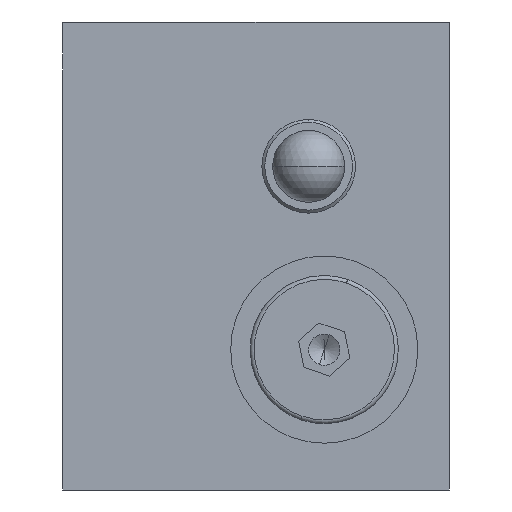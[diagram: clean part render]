
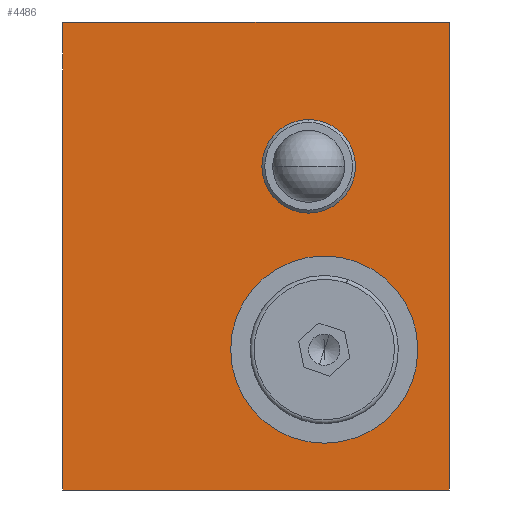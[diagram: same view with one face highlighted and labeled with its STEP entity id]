
A CAD part, left-side view. The second image highlights one B-rep face of the part: STEP entity #4486.
In plain terms, the highlighted planar face has unit normal (-1, 0, 0).
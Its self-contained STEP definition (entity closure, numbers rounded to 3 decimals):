
#42 = EDGE_CURVE ( 'NONE', #1400, #11056, #13925, .T. ) ;
#141 = AXIS2_PLACEMENT_3D ( 'NONE', #5186, #12765, #6318 ) ;
#222 = CARTESIAN_POINT ( 'NONE',  ( 0., -24.75, -30. ) ) ;
#473 = EDGE_CURVE ( 'NONE', #3227, #11909, #9689, .T. ) ;
#697 = VERTEX_POINT ( 'NONE', #12850 ) ;
#749 = PLANE ( 'NONE',  #6826 ) ;
#797 = DIRECTION ( 'NONE',  ( 0., 0., 1. ) ) ;
#802 = DIRECTION ( 'NONE',  ( 0., 0., 1. ) ) ;
#1220 = CARTESIAN_POINT ( 'NONE',  ( 0., 24.75, -30. ) ) ;
#1325 = FACE_BOUND ( 'NONE', #3506, .T. ) ;
#1400 = VERTEX_POINT ( 'NONE', #1220 ) ;
#1652 = EDGE_LOOP ( 'NONE', ( #4027, #2161, #1804, #1896 ) ) ;
#1804 = ORIENTED_EDGE ( 'NONE', *, *, #7840, .F. ) ;
#1896 = ORIENTED_EDGE ( 'NONE', *, *, #473, .F. ) ;
#2161 = ORIENTED_EDGE ( 'NONE', *, *, #42, .F. ) ;
#2606 = LINE ( 'NONE', #6685, #8139 ) ;
#2680 = VECTOR ( 'NONE', #10466, 1000. ) ;
#2766 = EDGE_CURVE ( 'NONE', #11056, #3227, #2934, .T. ) ;
#2816 = AXIS2_PLACEMENT_3D ( 'NONE', #6395, #13956, #7506 ) ;
#2934 = LINE ( 'NONE', #4022, #8794 ) ;
#3227 = VERTEX_POINT ( 'NONE', #10605 ) ;
#3506 = EDGE_LOOP ( 'NONE', ( #4284, #4207 ) ) ;
#3535 = CARTESIAN_POINT ( 'NONE',  ( 0., -24.75, -30. ) ) ;
#3759 = VERTEX_POINT ( 'NONE', #13927 ) ;
#3821 = VECTOR ( 'NONE', #6972, 1000. ) ;
#4022 = CARTESIAN_POINT ( 'NONE',  ( 0., 24.75, 30. ) ) ;
#4027 = ORIENTED_EDGE ( 'NONE', *, *, #2766, .F. ) ;
#4067 = ORIENTED_EDGE ( 'NONE', *, *, #9642, .F. ) ;
#4187 = ORIENTED_EDGE ( 'NONE', *, *, #4715, .F. ) ;
#4207 = ORIENTED_EDGE ( 'NONE', *, *, #6555, .F. ) ;
#4284 = ORIENTED_EDGE ( 'NONE', *, *, #12644, .F. ) ;
#4486 = ADVANCED_FACE ( 'NONE', ( #1325, #10374, #12556 ), #749, .T. ) ;
#4715 = EDGE_CURVE ( 'NONE', #7727, #12785, #11875, .T. ) ;
#5186 = CARTESIAN_POINT ( 'NONE',  ( 0., -6.75, 11.5 ) ) ;
#5209 = CIRCLE ( 'NONE', #9139, 6. ) ;
#5330 = CARTESIAN_POINT ( 'NONE',  ( 0., -8.75, 0. ) ) ;
#5575 = CARTESIAN_POINT ( 'NONE',  ( 0., -8.75, -12. ) ) ;
#6318 = DIRECTION ( 'NONE',  ( 0., 0., 1. ) ) ;
#6395 = CARTESIAN_POINT ( 'NONE',  ( 0., -8.75, -12. ) ) ;
#6555 = EDGE_CURVE ( 'NONE', #697, #3759, #9586, .T. ) ;
#6685 = CARTESIAN_POINT ( 'NONE',  ( 0., 24.75, -30. ) ) ;
#6687 = DIRECTION ( 'NONE',  ( 0., 0., 1. ) ) ;
#6826 = AXIS2_PLACEMENT_3D ( 'NONE', #13834, #7387, #802 ) ;
#6972 = DIRECTION ( 'NONE',  ( 0., 0., -1. ) ) ;
#7384 = DIRECTION ( 'NONE',  ( -1., 0., 0. ) ) ;
#7387 = DIRECTION ( 'NONE',  ( -1., 0., 0. ) ) ;
#7506 = DIRECTION ( 'NONE',  ( 0., 0., 1. ) ) ;
#7727 = VERTEX_POINT ( 'NONE', #5330 ) ;
#7840 = EDGE_CURVE ( 'NONE', #11909, #1400, #2606, .T. ) ;
#8139 = VECTOR ( 'NONE', #9961, 1000. ) ;
#8318 = CARTESIAN_POINT ( 'NONE',  ( 0., 24.75, -30. ) ) ;
#8794 = VECTOR ( 'NONE', #9522, 1000. ) ;
#8879 = EDGE_LOOP ( 'NONE', ( #4187, #4067 ) ) ;
#9139 = AXIS2_PLACEMENT_3D ( 'NONE', #13831, #7384, #797 ) ;
#9522 = DIRECTION ( 'NONE',  ( 0., -1., 0. ) ) ;
#9586 = CIRCLE ( 'NONE', #141, 6. ) ;
#9642 = EDGE_CURVE ( 'NONE', #12785, #7727, #10556, .T. ) ;
#9689 = LINE ( 'NONE', #3535, #3821 ) ;
#9961 = DIRECTION ( 'NONE',  ( 0., 1., 0. ) ) ;
#10170 = AXIS2_PLACEMENT_3D ( 'NONE', #5575, #13148, #6687 ) ;
#10374 = FACE_BOUND ( 'NONE', #8879, .T. ) ;
#10466 = DIRECTION ( 'NONE',  ( 0., 0., 1. ) ) ;
#10556 = CIRCLE ( 'NONE', #2816, 12. ) ;
#10605 = CARTESIAN_POINT ( 'NONE',  ( 0., -24.75, 30. ) ) ;
#10778 = CARTESIAN_POINT ( 'NONE',  ( 0., -8.75, -24. ) ) ;
#11056 = VERTEX_POINT ( 'NONE', #11853 ) ;
#11853 = CARTESIAN_POINT ( 'NONE',  ( 0., 24.75, 30. ) ) ;
#11875 = CIRCLE ( 'NONE', #10170, 12. ) ;
#11909 = VERTEX_POINT ( 'NONE', #222 ) ;
#12556 = FACE_OUTER_BOUND ( 'NONE', #1652, .T. ) ;
#12644 = EDGE_CURVE ( 'NONE', #3759, #697, #5209, .T. ) ;
#12765 = DIRECTION ( 'NONE',  ( -1., 0., 0. ) ) ;
#12785 = VERTEX_POINT ( 'NONE', #10778 ) ;
#12850 = CARTESIAN_POINT ( 'NONE',  ( 0., -6.75, 5.5 ) ) ;
#13148 = DIRECTION ( 'NONE',  ( -1., 0., 0. ) ) ;
#13831 = CARTESIAN_POINT ( 'NONE',  ( 0., -6.75, 11.5 ) ) ;
#13834 = CARTESIAN_POINT ( 'NONE',  ( 0., 0., 0. ) ) ;
#13925 = LINE ( 'NONE', #8318, #2680 ) ;
#13927 = CARTESIAN_POINT ( 'NONE',  ( 0., -6.75, 17.5 ) ) ;
#13956 = DIRECTION ( 'NONE',  ( -1., 0., 0. ) ) ;
